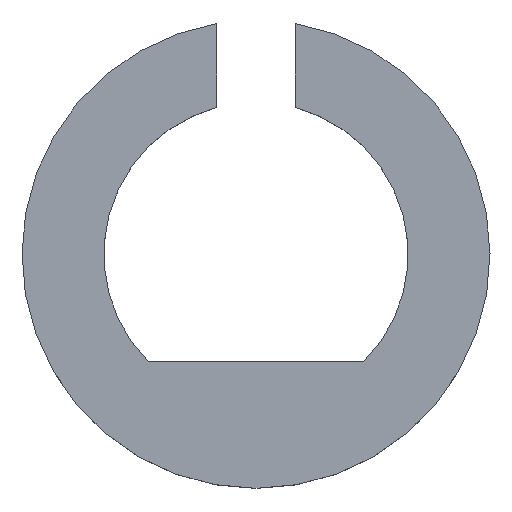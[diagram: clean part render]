
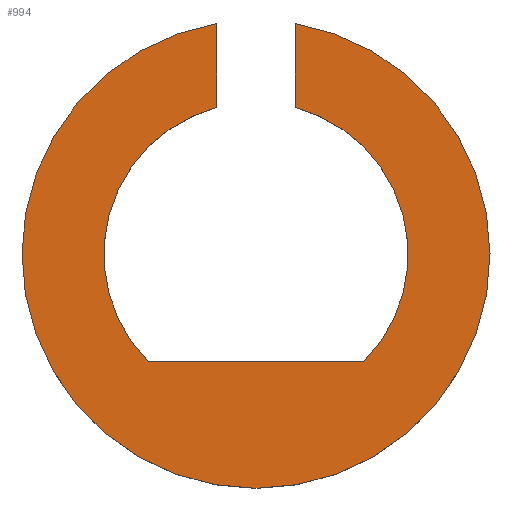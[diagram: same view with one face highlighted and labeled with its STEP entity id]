
A CAD part, top view. The second image highlights one B-rep face of the part: STEP entity #994.
In plain terms, the highlighted planar face has unit normal (0, 0, 1) as drawn and (0, 1, 0) by its records, which use the part's own axes.
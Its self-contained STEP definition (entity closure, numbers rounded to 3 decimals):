
#70 = FACE_OUTER_BOUND ( 'NONE', #495, .T. ) ;
#96 = CARTESIAN_POINT ( 'NONE',  ( -0.99, 2.01, -3.76 ) ) ;
#107 = CARTESIAN_POINT ( 'NONE',  ( -0.99, 2.01, -5.906 ) ) ;
#121 = VECTOR ( 'NONE', #529, 1000. ) ;
#174 = EDGE_CURVE ( 'NONE', #307, #475, #422, .T. ) ;
#239 = CARTESIAN_POINT ( 'NONE',  ( 1.01, 2.01, -5.906 ) ) ;
#243 = VERTEX_POINT ( 'NONE', #603 ) ;
#287 = AXIS2_PLACEMENT_3D ( 'NONE', #392, #474, #908 ) ;
#307 = VERTEX_POINT ( 'NONE', #96 ) ;
#309 = VECTOR ( 'NONE', #695, 1000. ) ;
#320 = EDGE_CURVE ( 'NONE', #928, #307, #869, .T. ) ;
#322 = CARTESIAN_POINT ( 'NONE',  ( 1.01, 2.01, -3.76 ) ) ;
#386 = DIRECTION ( 'NONE',  ( 0., 1., 0. ) ) ;
#392 = CARTESIAN_POINT ( 'NONE',  ( 0.01, 2.01, 0.01 ) ) ;
#422 = CIRCLE ( 'NONE', #1038, 3.9 ) ;
#431 = VECTOR ( 'NONE', #1043, 1000. ) ;
#448 = CARTESIAN_POINT ( 'NONE',  ( -2.748, 2.01, 2.768 ) ) ;
#458 = ORIENTED_EDGE ( 'NONE', *, *, #698, .T. ) ;
#474 = DIRECTION ( 'NONE',  ( 0., 1., 0. ) ) ;
#475 = VERTEX_POINT ( 'NONE', #1086 ) ;
#495 = EDGE_LOOP ( 'NONE', ( #722, #789, #1024, #458, #874, #638 ) ) ;
#517 = AXIS2_PLACEMENT_3D ( 'NONE', #1117, #1110, #833 ) ;
#529 = DIRECTION ( 'NONE',  ( -1., 0., 0. ) ) ;
#603 = CARTESIAN_POINT ( 'NONE',  ( 2.768, 2.01, 2.768 ) ) ;
#628 = VERTEX_POINT ( 'NONE', #322 ) ;
#638 = ORIENTED_EDGE ( 'NONE', *, *, #1044, .F. ) ;
#646 = AXIS2_PLACEMENT_3D ( 'NONE', #1064, #386, #981 ) ;
#679 = CARTESIAN_POINT ( 'NONE',  ( 1.01, 2.01, -6.513 ) ) ;
#691 = CARTESIAN_POINT ( 'NONE',  ( -0.99, 2.01, -6.513 ) ) ;
#695 = DIRECTION ( 'NONE',  ( 0., 0., 1. ) ) ;
#698 = EDGE_CURVE ( 'NONE', #928, #707, #798, .T. ) ;
#707 = VERTEX_POINT ( 'NONE', #239 ) ;
#709 = PLANE ( 'NONE',  #646 ) ;
#713 = DIRECTION ( 'NONE',  ( 0., 0., 1. ) ) ;
#722 = ORIENTED_EDGE ( 'NONE', *, *, #972, .T. ) ;
#789 = ORIENTED_EDGE ( 'NONE', *, *, #174, .F. ) ;
#795 = CARTESIAN_POINT ( 'NONE',  ( 0.01, 2.01, 0.01 ) ) ;
#798 = CIRCLE ( 'NONE', #517, 6. ) ;
#833 = DIRECTION ( 'NONE',  ( 0., 0., 1. ) ) ;
#835 = EDGE_CURVE ( 'NONE', #628, #707, #935, .T. ) ;
#869 = LINE ( 'NONE', #691, #309 ) ;
#874 = ORIENTED_EDGE ( 'NONE', *, *, #835, .F. ) ;
#886 = DIRECTION ( 'NONE',  ( 0., 1., 0. ) ) ;
#908 = DIRECTION ( 'NONE',  ( 0., 0., 1. ) ) ;
#928 = VERTEX_POINT ( 'NONE', #107 ) ;
#935 = LINE ( 'NONE', #679, #431 ) ;
#972 = EDGE_CURVE ( 'NONE', #243, #475, #1069, .T. ) ;
#981 = DIRECTION ( 'NONE',  ( 0., 0., 1. ) ) ;
#994 = ADVANCED_FACE ( 'NONE', ( #70 ), #709, .T. ) ;
#1024 = ORIENTED_EDGE ( 'NONE', *, *, #320, .F. ) ;
#1030 = CIRCLE ( 'NONE', #287, 3.9 ) ;
#1038 = AXIS2_PLACEMENT_3D ( 'NONE', #795, #886, #713 ) ;
#1043 = DIRECTION ( 'NONE',  ( 0., 0., -1. ) ) ;
#1044 = EDGE_CURVE ( 'NONE', #243, #628, #1030, .T. ) ;
#1064 = CARTESIAN_POINT ( 'NONE',  ( 0.01, 2.01, 0.01 ) ) ;
#1069 = LINE ( 'NONE', #448, #121 ) ;
#1086 = CARTESIAN_POINT ( 'NONE',  ( -2.748, 2.01, 2.768 ) ) ;
#1110 = DIRECTION ( 'NONE',  ( 0., 1., 0. ) ) ;
#1117 = CARTESIAN_POINT ( 'NONE',  ( 0.01, 2.01, 0.01 ) ) ;
